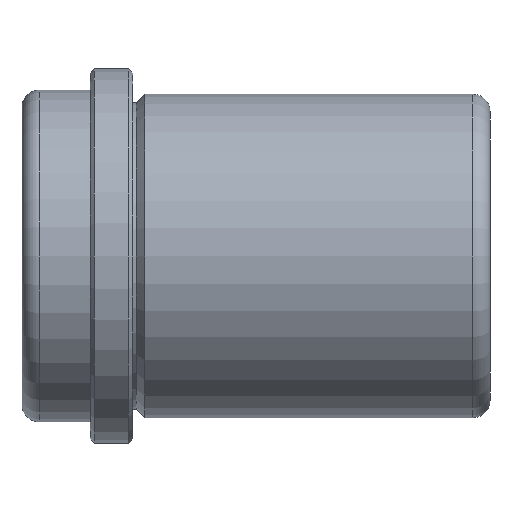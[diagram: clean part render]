
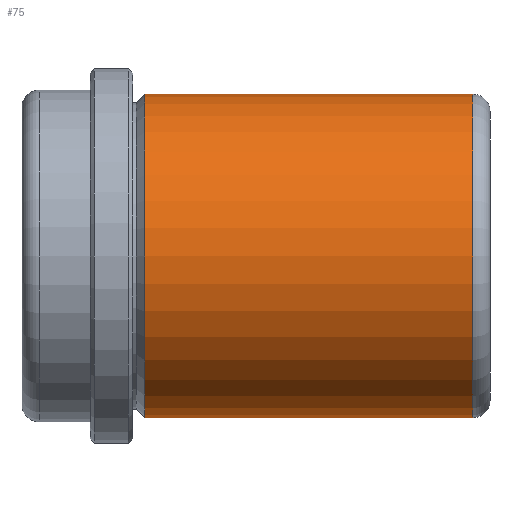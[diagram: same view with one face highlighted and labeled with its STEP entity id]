
A CAD part, front view. The second image highlights one B-rep face of the part: STEP entity #75.
In plain terms, the highlighted cylindrical face has radius 19 mm (diameter 38 mm), a full revolution.
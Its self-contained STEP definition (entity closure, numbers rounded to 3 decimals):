
#75 = ADVANCED_FACE( '', ( #163, #164, #165 ), #166, .T. );
#163 = FACE_OUTER_BOUND( '', #248, .T. );
#164 = FACE_BOUND( '', #249, .T. );
#165 = FACE_OUTER_BOUND( '', #250, .T. );
#166 = CYLINDRICAL_SURFACE( '', #251, 19. );
#248 = EDGE_LOOP( '', ( #359 ) );
#249 = EDGE_LOOP( '', ( #360 ) );
#250 = EDGE_LOOP( '', ( #361 ) );
#251 = AXIS2_PLACEMENT_3D( '', #362, #363, #364 );
#359 = ORIENTED_EDGE( '', *, *, #412, .T. );
#360 = ORIENTED_EDGE( '', *, *, #403, .T. );
#361 = ORIENTED_EDGE( '', *, *, #398, .F. );
#362 = CARTESIAN_POINT( '', ( 42., 0., 0. ) );
#363 = DIRECTION( '', ( -1., 0., 0. ) );
#364 = DIRECTION( '', ( 0., 0., -1. ) );
#398 = EDGE_CURVE( '', #449, #449, #450, .T. );
#403 = EDGE_CURVE( '', #457, #457, #458, .T. );
#412 = EDGE_CURVE( '', #470, #470, #471, .T. );
#449 = VERTEX_POINT( '', #565 );
#450 = CIRCLE( '', #566, 19. );
#457 = VERTEX_POINT( '', #573 );
#458 = B_SPLINE_CURVE_WITH_KNOTS( '', 3, ( #574, #575, #576, #577, #578, #579, #580, #581, #582, #583, #584, #585, #586, #587, #588, #589, #590, #591, #592, #593, #594, #595, #596, #597, #598, #599, #600, #601, #602, #603, #604, #605, #606, #607, #608, #609, #610, #611, #612, #613, #614, #615, #616, #617, #618, #619, #620, #621, #622, #623, #624, #625, #626, #627, #628, #629, #630, #631, #632, #633, #634, #635 ), .UNSPECIFIED., .T., .F., ( 2, 2, 2, 2, 2, 2, 2, 2, 2, 2, 2, 2, 2, 2, 2, 2, 2, 2, 2, 2, 2, 2, 2, 2, 2, 2, 2, 2, 2, 2, 2, 2, 2 ), ( -0.001, 0., 0., 0.001, 0.001, 0.002, 0.002, 0.003, 0.003, 0.004, 0.004, 0.005, 0.005, 0.006, 0.006, 0.007, 0.007, 0.008, 0.008, 0.009, 0.009, 0.01, 0.01, 0.011, 0.011, 0.012, 0.012, 0.013, 0.013, 0.014, 0.015, 0.016, 0.016 ), .UNSPECIFIED. );
#470 = VERTEX_POINT( '', #647 );
#471 = CIRCLE( '', #648, 19. );
#565 = CARTESIAN_POINT( '', ( 40., 0., -19. ) );
#566 = AXIS2_PLACEMENT_3D( '', #685, #686, #687 );
#573 = CARTESIAN_POINT( '', ( 12., 18.835, -2.5 ) );
#574 = CARTESIAN_POINT( '', ( 11.669, 18.835, -2.5 ) );
#575 = CARTESIAN_POINT( '', ( 12.165, 18.835, -2.5 ) );
#576 = CARTESIAN_POINT( '', ( 12.328, 18.837, -2.484 ) );
#577 = CARTESIAN_POINT( '', ( 12.648, 18.845, -2.42 ) );
#578 = CARTESIAN_POINT( '', ( 12.807, 18.851, -2.372 ) );
#579 = CARTESIAN_POINT( '', ( 13.109, 18.867, -2.246 ) );
#580 = CARTESIAN_POINT( '', ( 13.253, 18.876, -2.17 ) );
#581 = CARTESIAN_POINT( '', ( 13.524, 18.896, -1.988 ) );
#582 = CARTESIAN_POINT( '', ( 13.653, 18.907, -1.883 ) );
#583 = CARTESIAN_POINT( '', ( 13.883, 18.928, -1.652 ) );
#584 = CARTESIAN_POINT( '', ( 13.987, 18.939, -1.527 ) );
#585 = CARTESIAN_POINT( '', ( 14.169, 18.959, -1.253 ) );
#586 = CARTESIAN_POINT( '', ( 14.247, 18.968, -1.108 ) );
#587 = CARTESIAN_POINT( '', ( 14.372, 18.983, -0.807 ) );
#588 = CARTESIAN_POINT( '', ( 14.42, 18.99, -0.65 ) );
#589 = CARTESIAN_POINT( '', ( 14.484, 18.998, -0.327 ) );
#590 = CARTESIAN_POINT( '', ( 14.5, 19., -0.165 ) );
#591 = CARTESIAN_POINT( '', ( 14.5, 19., 0.162 ) );
#592 = CARTESIAN_POINT( '', ( 14.484, 18.998, 0.328 ) );
#593 = CARTESIAN_POINT( '', ( 14.42, 18.99, 0.648 ) );
#594 = CARTESIAN_POINT( '', ( 14.373, 18.984, 0.804 ) );
#595 = CARTESIAN_POINT( '', ( 14.247, 18.968, 1.107 ) );
#596 = CARTESIAN_POINT( '', ( 14.169, 18.959, 1.253 ) );
#597 = CARTESIAN_POINT( '', ( 13.988, 18.939, 1.524 ) );
#598 = CARTESIAN_POINT( '', ( 13.885, 18.929, 1.65 ) );
#599 = CARTESIAN_POINT( '', ( 13.652, 18.907, 1.884 ) );
#600 = CARTESIAN_POINT( '', ( 13.526, 18.896, 1.987 ) );
#601 = CARTESIAN_POINT( '', ( 13.255, 18.876, 2.168 ) );
#602 = CARTESIAN_POINT( '', ( 13.109, 18.867, 2.247 ) );
#603 = CARTESIAN_POINT( '', ( 12.806, 18.851, 2.372 ) );
#604 = CARTESIAN_POINT( '', ( 12.651, 18.845, 2.419 ) );
#605 = CARTESIAN_POINT( '', ( 12.33, 18.837, 2.484 ) );
#606 = CARTESIAN_POINT( '', ( 12.164, 18.835, 2.5 ) );
#607 = CARTESIAN_POINT( '', ( 11.838, 18.835, 2.5 ) );
#608 = CARTESIAN_POINT( '', ( 11.675, 18.837, 2.484 ) );
#609 = CARTESIAN_POINT( '', ( 11.352, 18.845, 2.42 ) );
#610 = CARTESIAN_POINT( '', ( 11.195, 18.851, 2.372 ) );
#611 = CARTESIAN_POINT( '', ( 10.894, 18.867, 2.248 ) );
#612 = CARTESIAN_POINT( '', ( 10.748, 18.876, 2.17 ) );
#613 = CARTESIAN_POINT( '', ( 10.475, 18.896, 1.988 ) );
#614 = CARTESIAN_POINT( '', ( 10.349, 18.907, 1.885 ) );
#615 = CARTESIAN_POINT( '', ( 10.119, 18.928, 1.654 ) );
#616 = CARTESIAN_POINT( '', ( 10.013, 18.939, 1.526 ) );
#617 = CARTESIAN_POINT( '', ( 9.831, 18.959, 1.255 ) );
#618 = CARTESIAN_POINT( '', ( 9.755, 18.968, 1.111 ) );
#619 = CARTESIAN_POINT( '', ( 9.629, 18.983, 0.809 ) );
#620 = CARTESIAN_POINT( '', ( 9.58, 18.99, 0.65 ) );
#621 = CARTESIAN_POINT( '', ( 9.517, 18.998, 0.33 ) );
#622 = CARTESIAN_POINT( '', ( 9.5, 19., 0.168 ) );
#623 = CARTESIAN_POINT( '', ( 9.5, 19., -0.163 ) );
#624 = CARTESIAN_POINT( '', ( 9.516, 18.998, -0.326 ) );
#625 = CARTESIAN_POINT( '', ( 9.579, 18.99, -0.645 ) );
#626 = CARTESIAN_POINT( '', ( 9.627, 18.984, -0.804 ) );
#627 = CARTESIAN_POINT( '', ( 9.753, 18.968, -1.107 ) );
#628 = CARTESIAN_POINT( '', ( 9.829, 18.959, -1.251 ) );
#629 = CARTESIAN_POINT( '', ( 10.01, 18.939, -1.523 ) );
#630 = CARTESIAN_POINT( '', ( 10.116, 18.928, -1.651 ) );
#631 = CARTESIAN_POINT( '', ( 10.461, 18.896, -1.997 ) );
#632 = CARTESIAN_POINT( '', ( 10.739, 18.875, -2.183 ) );
#633 = CARTESIAN_POINT( '', ( 11.341, 18.844, -2.433 ) );
#634 = CARTESIAN_POINT( '', ( 11.669, 18.835, -2.5 ) );
#635 = CARTESIAN_POINT( '', ( 12.165, 18.835, -2.5 ) );
#647 = CARTESIAN_POINT( '', ( 1.414, 0., -19. ) );
#648 = AXIS2_PLACEMENT_3D( '', #703, #704, #705 );
#685 = CARTESIAN_POINT( '', ( 40., 0., 0. ) );
#686 = DIRECTION( '', ( 1., 0., 0. ) );
#687 = DIRECTION( '', ( 0., 0., -1. ) );
#703 = CARTESIAN_POINT( '', ( 1.414, 0., 0. ) );
#704 = DIRECTION( '', ( 1., 0., 0. ) );
#705 = DIRECTION( '', ( 0., 0., -1. ) );
